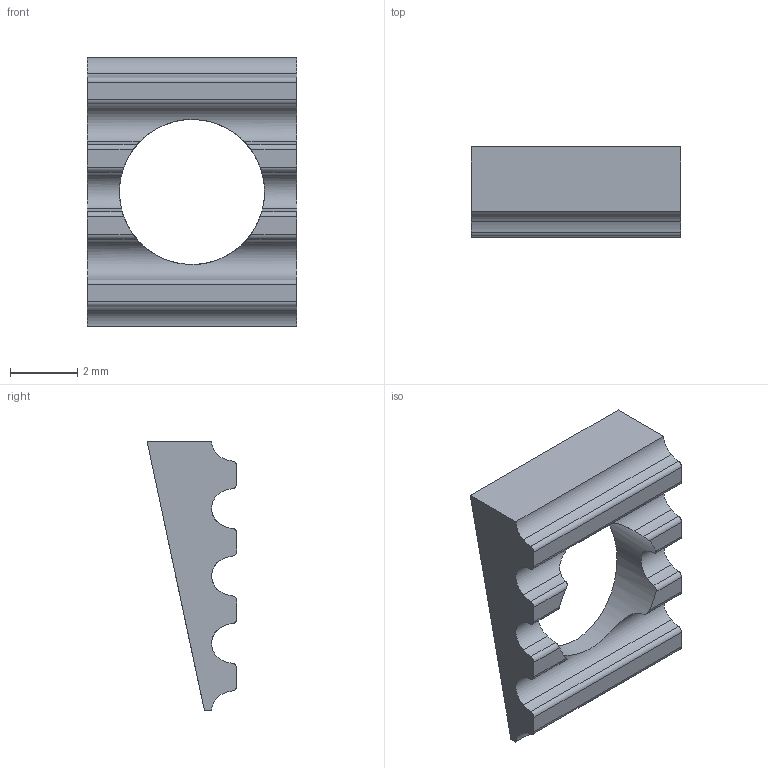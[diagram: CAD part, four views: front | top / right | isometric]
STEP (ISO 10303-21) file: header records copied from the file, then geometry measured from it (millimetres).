
FILE_DESCRIPTION(/* description */ ('www.motedis.com','CAx-IF Rec.Pracs.---Representation and Presentation of Product Manufacturing Information (PMI)---4.0---2014-10-13'),/* implementation_level */ '2;1');
FILE_NAME(/* name */ 'Motedis 3DPBT6MMGT22.stp',/* time_stamp */ '2026-03-12T13:51:46+01:00',/* author */ ('Motedis'),/* organization */ ('Motedis GmbH'),/* preprocessor_version */ 'ST-DEVELOPER v20.1',/* originating_system */ 'Autodesk Inventor 2026',/* authorisation */ '');
FILE_SCHEMA (('AP242_MANAGED_MODEL_BASED_3D_ENGINEERING_MIM_LF { 1 0 10303 442 2 1 4 }'));
Length unit declared in the file: millimetre
Products named in the file (2): Motedis 3DPBT6MMGT2; Motedis 3DPBT6MMGT22
Assembly tree (1 placements, depth 2):
  Motedis 3DPBT6MMGT2
    Motedis 3DPBT6MMGT22
Bounding box: 6.2 x 2.66 x 8 mm (x, y, z)
Volume: 50.7 mm3; surface area: 140 mm2
Topology: 1 solids, 1 shells, 42 faces, 123 edges, 82 vertices
Faces by surface type: cylinder 31, plane 11
Full cylindrical faces by diameter (mm): 4.3 x1
Entity records: 1786 total; most frequent: CARTESIAN_POINT 467, DIRECTION 281, ORIENTED_EDGE 246, EDGE_CURVE 123, AXIS2_PLACEMENT_3D 113, VERTEX_POINT 82, LINE 55, VECTOR 55
